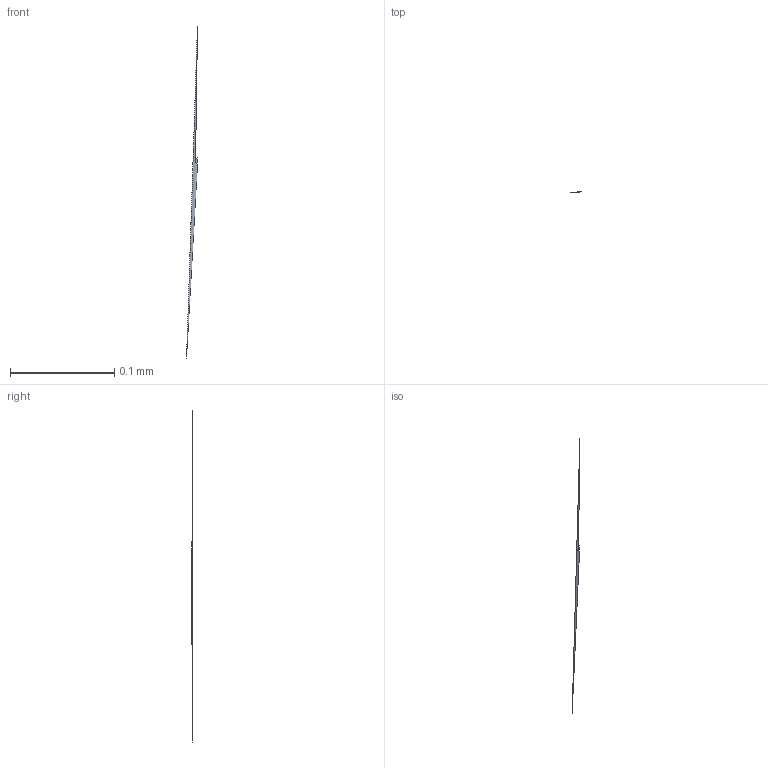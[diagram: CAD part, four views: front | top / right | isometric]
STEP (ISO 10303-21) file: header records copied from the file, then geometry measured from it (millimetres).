
FILE_DESCRIPTION(/* description */ ('STEP AP242 Edition 2','CAx-IF Rec.Pracs.---Representation and Presentation of Product Manufacturing Information (PMI)---4.0---2014-10-13','CAx-IF Rec.Pracs.---3D Tessellated Geometry---0.4---2014-09-14','2;1','CAx-IF Rec.Pracs.---User Defined Attributes---1.5---2016-08-15'),/* implementation_level */ '2;1');
FILE_NAME(/* name */ 'Assembly 1 - Part 38',/* time_stamp */ '2026-03-29T21:14:57Z',/* author */ (''),/* organization */ (''),/* preprocessor_version */ 'ST-DEVELOPER v20',/* originating_system */ 'ONSHAPE BY PTC INC, 1.212',/* authorisation */ ' ');
FILE_SCHEMA (('AP242_MANAGED_MODEL_BASED_3D_ENGINEERING_MIM_LF { 1 0 10303 442 3 1 4 }'));
Length unit declared in the file: metre
Products named in the file (1): Part 38
Bounding box: 0.01 x 0 x 0.32 mm (x, y, z)
Surface area: 0 mm2 (no closed solid volume)
Topology: 0 solids, 1 shells, 1 faces, 0 edges, 0 vertices
Faces by surface type: other 1
Entity records: 31 total; most frequent: DIRECTION 2, SHAPE_REPRESENTATION_RELATIONSHIP 1, TESSELLATED_SHAPE_REPRESENTATION 1, STYLED_ITEM 1, PRESENTATION_STYLE_ASSIGNMENT 1, SURFACE_STYLE_USAGE 1, SURFACE_SIDE_STYLE 1, SURFACE_STYLE_FILL_AREA 1
